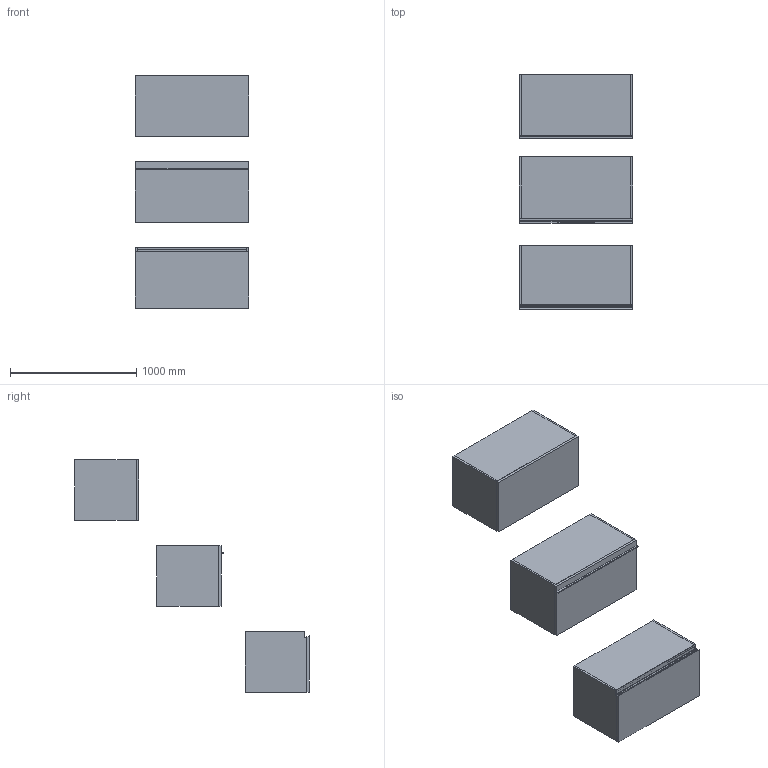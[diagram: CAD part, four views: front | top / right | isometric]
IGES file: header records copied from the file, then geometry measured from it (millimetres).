
Start section: Data from Parasolid IGES Translator 19.0.9, Copyright(c) 2006 Siemens PL M Software. All Rights Reserved.
Global section: file name: noorth-SI-H 48 D 51 W 90_8567.igs; native system: By Siemens PLM Incorporated; preprocessor: XPlus GENERIC/IGES 19.0.9; author: Noname; organization: Noname; date: 20200601.113109; units: metre
Bounding box: 900 x 1857.1 x 1840.01 mm (x, y, z)
Volume: 90179308.7 mm3; surface area: 13462042 mm2
Topology: 20 solids, 20 shells, 178 faces, 382 edges, 234 vertices
Faces by surface type: plane 134, extrusion 16, bspline 16, cylinder 12
